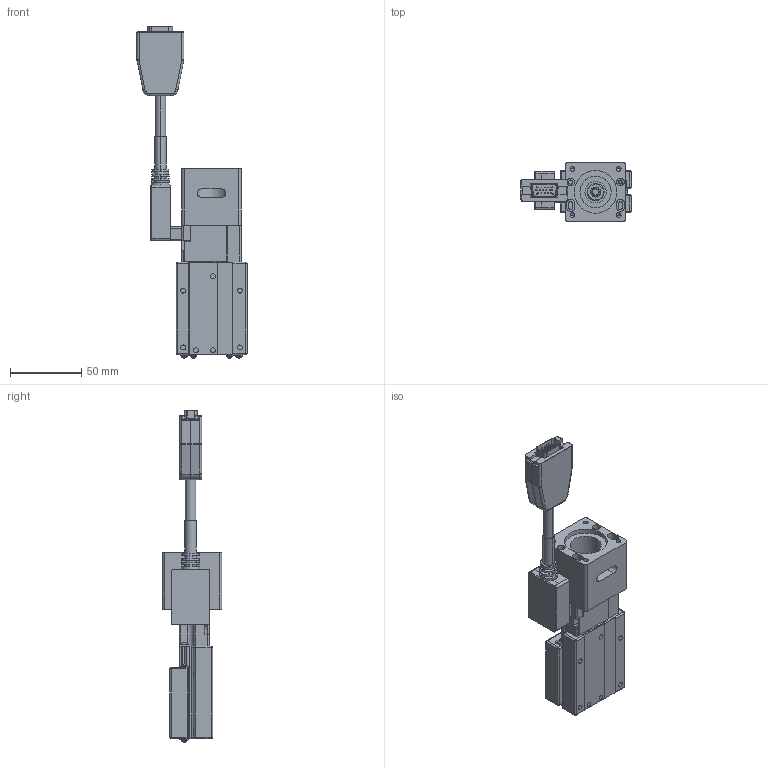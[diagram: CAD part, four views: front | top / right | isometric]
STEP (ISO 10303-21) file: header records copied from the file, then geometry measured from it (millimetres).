
FILE_DESCRIPTION (( 'STEP AP203' ), '1' );
FILE_NAME ('CXS5030(伺服M無馬達).STEP', '2023-12-07T06:41:22', ( '' ), ( '' ), 'SwSTEP 2.0', 'SolidWorks 2019', '' );
FILE_SCHEMA (( 'CONFIG_CONTROL_DESIGN' ));
Length unit declared in the file: millimetre
Products named in the file (5): CXS5030(伺服M無馬達); Group2^CXS5030(伺服M無馬達)_defeature_GMT; Group1^CXS5030(伺服M無馬達)_defeature_GMT; 伺服馬達轉接板(P.C.D 46).step_GMT; 伺服馬達轉接軸.step_GMT
Assembly tree (4 placements, depth 2):
  CXS5030(伺服M無馬達)
    Group1^CXS5030(伺服M無馬達)_defeature_GMT
    Group2^CXS5030(伺服M無馬達)_defeature_GMT
    伺服馬達轉接軸.step_GMT
    伺服馬達轉接板(P.C.D 46).step_GMT
Bounding box: 77.5 x 42 x 233.59 mm (x, y, z)
Volume: 156357.3 mm3; surface area: 73863.3 mm2
Topology: 7 solids, 7 shells, 5316 faces, 13729 edges, 8685 vertices
Faces by surface type: plane 2849, bspline 1328, cylinder 871, cone 129, sphere 88, torus 51
Entity records: 179832 total; most frequent: CARTESIAN_POINT 60644, ORIENTED_EDGE 27246, DIRECTION 19694, EDGE_CURVE 13623, VERTEX_POINT 8685, LINE 7932, VECTOR 7932, AXIS2_PLACEMENT_3D 5881
